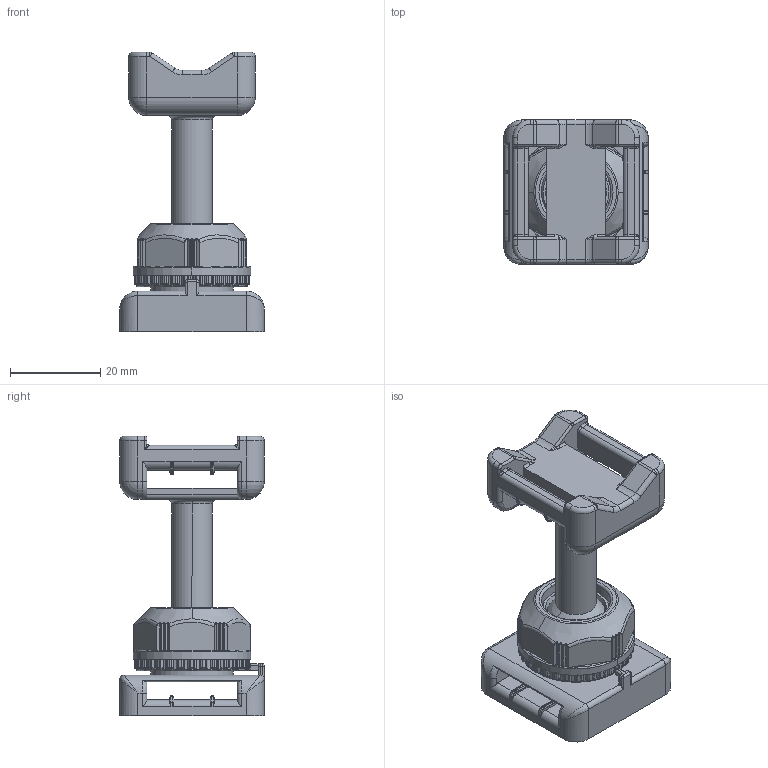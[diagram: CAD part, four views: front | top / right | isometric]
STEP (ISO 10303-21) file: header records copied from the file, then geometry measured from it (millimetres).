
FILE_DESCRIPTION(('Creo Elements/Direct Modeling STEP Export'),'2;1');
FILE_NAME('H22-0005-CL905-00_CH-TMH5.stp','2023-06-07T17:08:29',(''),(''),'Creo Elements/Direct Modeling STEP processor for AP214 (Solid Model)','Creo Elements/Direct Modeling 20.3B 05-Dec-2020 (C) Parametric Technology GmbH','');
FILE_SCHEMA(('AUTOMOTIVE_DESIGN { 1 0 10303 214 1 1 1 1 }'));
Products named in the file (4): Dome nut; Fixing base; Holder; CH-TMH5
Assembly tree (3 placements, depth 2):
  CH-TMH5
    Holder
    Fixing base
    Dome nut
Bounding box: 32 x 32 x 61.91 mm (x, y, z)
Volume: 18566.5 mm3; surface area: 13627.7 mm2
Topology: 3 solids, 3 shells, 1165 faces, 3035 edges, 1854 vertices
Faces by surface type: cylinder 389, plane 310, bspline 281, torus 157, sphere 16, cone 12
Entity records: 63521 total; most frequent: CARTESIAN_POINT 37737, ORIENTED_EDGE 6018, DIRECTION 4419, EDGE_CURVE 3009, VERTEX_POINT 1854, AXIS2_PLACEMENT_3D 1676, EDGE_LOOP 1184, FACE_OUTER_BOUND 1165
